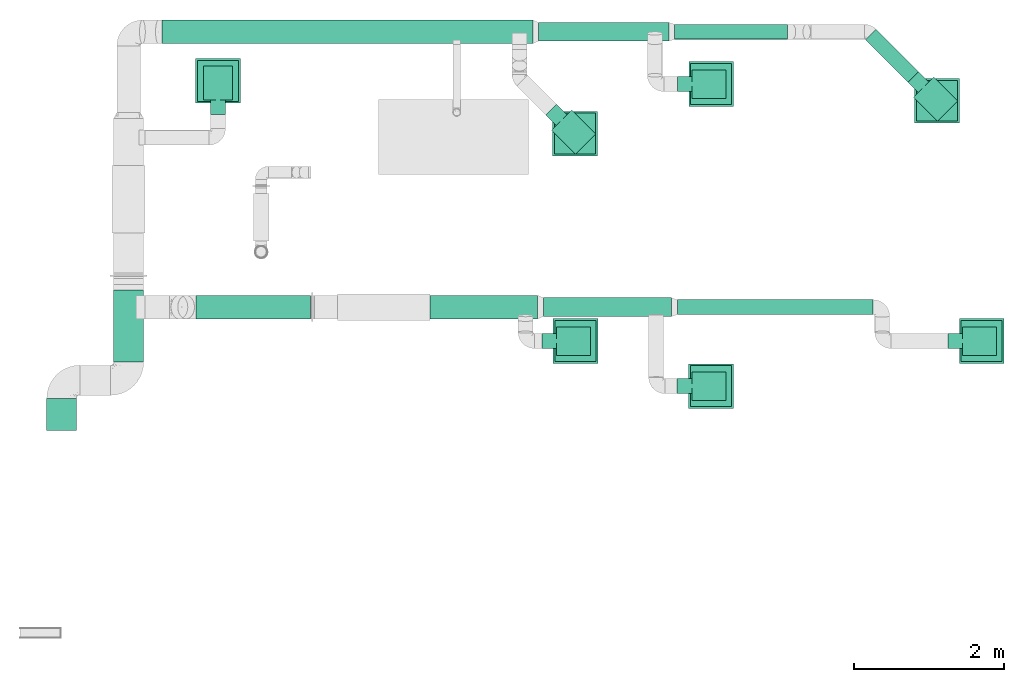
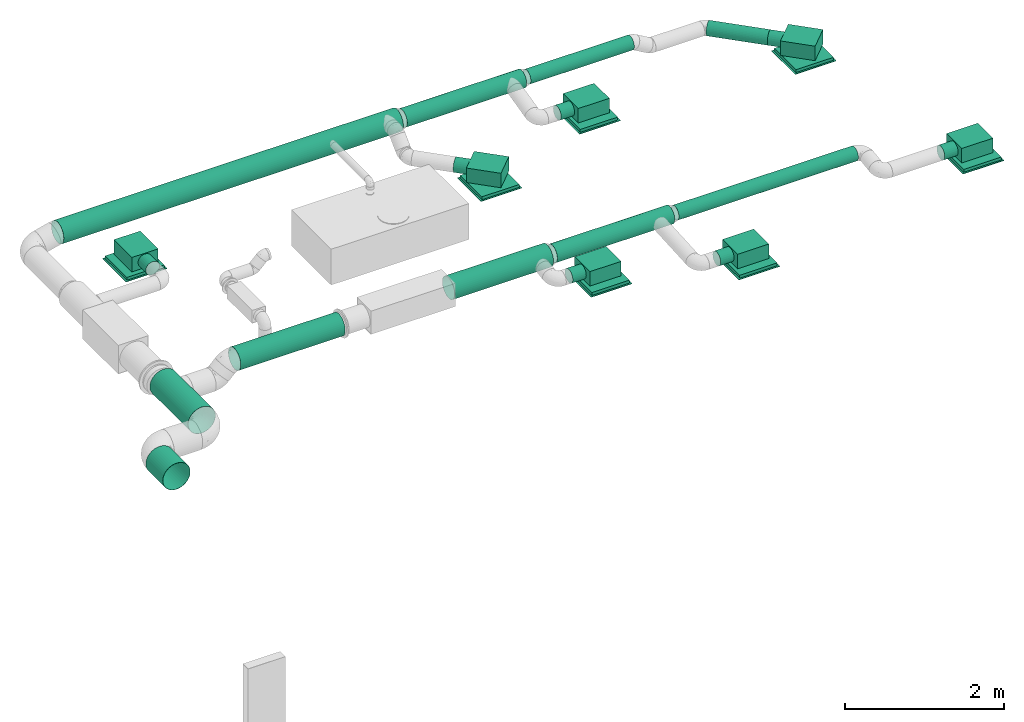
# One storey, part 1 of 16: 10 flow segments, 7 flow terminals.
"""IFC2X3 building model written with IfcOpenShell, lengths in millimetres."""

from ifc_helpers import new_model, entity, si_unit, converted_unit, derived_unit, direction, frame, origin_with_axes, origin_2d_with_axis, place, context, subcontext, project, spatial, hollow_circle, extrude, open_shell, surface_model, source, transform, mapped, type_object, element, save


model = new_model("IFC2X3")

# Units and contexts
model_context = context("Model", 3, precision=0.01, world=frame((0.0, 4.29681676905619e-09, 0.0)), true_north=direction((4.01073788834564e-13, 1.0)))
plan_context = context("Plan", 3, precision=0.01, world=frame((0.0, 4.29681676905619e-09, 0.0)), true_north=direction((4.01073788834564e-13, 1.0)))
body_context = subcontext(model_context, "Body", "Model", "MODEL_VIEW")
ifc_project = project(units=[converted_unit("PLANEANGLEUNIT", "DEGREE", entity("IfcPositiveLengthMeasure", 0.0174532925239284), si_unit("PLANEANGLEUNIT", "RADIAN"), dimensions=[0, 0, 0, 0, 0, 0, 0]), si_unit("AREAUNIT", "SQUARE_METRE"), si_unit("LENGTHUNIT", "METRE", prefix="MILLI"), si_unit("MASSUNIT", "GRAM", prefix="KILO"), si_unit("POWERUNIT", "WATT"), si_unit("PRESSUREUNIT", "PASCAL"), si_unit("FORCEUNIT", "NEWTON", prefix="KILO"), si_unit("ELECTRICVOLTAGEUNIT", "VOLT"), si_unit("ELECTRICCURRENTUNIT", "AMPERE"), si_unit("THERMODYNAMICTEMPERATUREUNIT", "DEGREE_CELSIUS"), si_unit("TIMEUNIT", "SECOND"), si_unit("VOLUMEUNIT", "CUBIC_METRE"), derived_unit("LINEARVELOCITYUNIT", [(si_unit("LENGTHUNIT", "METRE"), 1), (si_unit("TIMEUNIT", "SECOND"), -1)]), derived_unit("VOLUMETRICFLOWRATEUNIT", [(si_unit("VOLUMEUNIT", "CUBIC_METRE"), 1), (si_unit("TIMEUNIT", "SECOND"), -1)]), derived_unit("THERMALTRANSMITTANCEUNIT", [(si_unit("POWERUNIT", "WATT"), 1), (si_unit("THERMODYNAMICTEMPERATUREUNIT", "KELVIN"), -1), (si_unit("AREAUNIT", "SQUARE_METRE"), -1)]), derived_unit("SOUNDPRESSUREUNIT", [(si_unit("PRESSUREUNIT", "PASCAL"), 1)])], contexts=[model_context, plan_context])

# Site, building, storey
site_placement = place(None, frame((0.0, -4.29681676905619e-09, 0.0), z_axis=(0.0, 0.0, 1.0), x_axis=(1.0, 0.0, 0.0)))
site = spatial("IfcSite", under=ifc_project, at=site_placement, Name="ENGM", CompositionType="ELEMENT")
building_placement = place(site_placement, frame((0.0, 4.29681676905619e-09, 0.0), z_axis=(0.0, 0.0, 1.0), x_axis=(1.0, 0.0, 0.0)))
building = spatial("IfcBuilding", under=site, at=building_placement, Name="TH", CompositionType="ELEMENT")
storey_placement = place(building_placement, frame((0.0, 0.0, 210200.0), z_axis=(0.0, 0.0, 1.0), x_axis=(1.0, 0.0, 0.0)))
storey = spatial("IfcBuildingStorey", under=building, at=storey_placement, Name="Nivå F - 0,7 m", CompositionType="ELEMENT", Elevation=210200.0)

# Flow segments
duct_segment_type_1 = type_object("IfcDuctSegmentType", Name="2 - Spiro kanaler, Forsinket stål", PredefinedType="RIGIDSEGMENT")
shared_shape_1 = source(origin_with_axes(), body_context, "Body", "SweptSolid", [
    extrude(hollow_circle(Radius=200.0, WallThickness=2.0, at=origin_2d_with_axis()), frame((0.0, 0.0, 0.0), z_axis=(1.0, 0.0, 0.0), x_axis=(0.0, 1.0, 0.0)), (0.0, 0.0, 1.0), 426.8),
])
flow_segment_1_placement = place(storey_placement, frame((895666.49216, 481037.11656, 2677.84318), z_axis=(0.0, -2.5999999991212e-05, 0.999999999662), x_axis=(0.0, 0.999999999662, 2.5999999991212e-05)))
element("IfcFlowSegment", 1, at=flow_segment_1_placement, inside=storey, type_object=duct_segment_type_1, Name="2 - Spiro kanaler, Forsinket stål", context=body_context, shape_type="MappedRepresentation", body=[
    mapped(shared_shape_1, transform((0.0, 0.0, 0.0), scale=1.0)),
])
shared_shape_2 = source(origin_with_axes(), body_context, "Body", "SweptSolid", [
    extrude(hollow_circle(Radius=100.0, WallThickness=2.0, at=origin_2d_with_axis()), frame((0.0, 0.0, 0.0), z_axis=(1.0, 0.0, 0.0), x_axis=(0.0, 1.0, 0.0)), (0.0, 0.0, 1.0), 2605.0),
])
flow_segment_2_placement = place(storey_placement, frame((903851.49216, 482676.69257, 2861.60000000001), z_axis=(0.0, 0.0, 1.0), x_axis=(1.0, 0.0, 0.0)))
element("IfcFlowSegment", 2, at=flow_segment_2_placement, inside=storey, type_object=duct_segment_type_1, Name="2 - Spiro kanaler, Forsinket stål", context=body_context, shape_type="MappedRepresentation", body=[
    mapped(shared_shape_2, transform((0.0, 0.0, 0.0), scale=1.0)),
])
shared_shape_3 = source(origin_with_axes(), body_context, "Body", "SweptSolid", [
    extrude(hollow_circle(Radius=157.5, WallThickness=2.0, at=origin_2d_with_axis()), frame((0.0, 0.0, 0.0), z_axis=(1.0, 0.0, 0.0), x_axis=(0.0, 1.0, 0.0)), (0.0, 0.0, 1.0), 1517.3),
])
flow_segment_3_placement = place(storey_placement, frame((898972.1162, 482676.69257, 2861.60000000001), z_axis=(0.0, 0.0, 1.0), x_axis=(-1.0, 0.0, 0.0)))
element("IfcFlowSegment", 3, at=flow_segment_3_placement, inside=storey, type_object=duct_segment_type_1, Name="2 - Spiro kanaler, Forsinket stål", context=body_context, shape_type="MappedRepresentation", body=[
    mapped(shared_shape_3, transform((0.0, 0.0, 0.0), scale=1.0)),
])
shared_shape_4 = source(origin_with_axes(), body_context, "Body", "SweptSolid", [
    extrude(hollow_circle(Radius=125.0, WallThickness=2.0, at=origin_2d_with_axis()), frame((0.0, 0.0, 0.0), z_axis=(1.0, 0.0, 0.0), x_axis=(0.0, 1.0, 0.0)), (0.0, 0.0, 1.0), 1705.0),
])
flow_segment_4_placement = place(storey_placement, frame((902071.49216, 482676.69257, 2861.60000000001), z_axis=(0.0, 0.0, 1.0), x_axis=(1.0, 0.0, 0.0)))
element("IfcFlowSegment", 4, at=flow_segment_4_placement, inside=storey, type_object=duct_segment_type_1, Name="2 - Spiro kanaler, Forsinket stål", context=body_context, shape_type="MappedRepresentation", body=[
    mapped(shared_shape_4, transform((0.0, 0.0, 0.0), scale=1.0)),
])
shared_shape_5 = source(origin_with_axes(), body_context, "Body", "SweptSolid", [
    extrude(hollow_circle(Radius=125.0, WallThickness=2.0, at=origin_2d_with_axis()), frame((0.0, 0.0, 0.0), z_axis=(1.0, 0.0, 0.0), x_axis=(0.0, 1.0, 0.0)), (0.0, 0.0, 1.0), 1734.4),
])
flow_segment_5_placement = place(storey_placement, frame((902005.30997, 486337.00187, 2743.3186), z_axis=(4.1999999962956e-05, 0.0, 0.999999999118), x_axis=(0.999999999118, 0.0, -4.1999999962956e-05)))
element("IfcFlowSegment", 5, at=flow_segment_5_placement, inside=storey, type_object=duct_segment_type_1, Name="2 - Spiro kanaler, Forsinket stål", context=body_context, shape_type="MappedRepresentation", body=[
    mapped(shared_shape_5, transform((0.0, 0.0, 0.0), scale=1.0)),
])
shared_shape_6 = source(origin_with_axes(), body_context, "Body", "SweptSolid", [
    extrude(hollow_circle(Radius=157.5, WallThickness=2.0, at=origin_2d_with_axis()), frame((0.0, 0.0, 0.0), z_axis=(1.0, 0.0, 0.0), x_axis=(0.0, 1.0, 0.0)), (0.0, 0.0, 1.0), 1433.2),
])
flow_segment_6_placement = place(storey_placement, frame((901996.49216, 482676.69257, 2861.60000000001), z_axis=(0.0, 0.0, 1.0), x_axis=(-1.0, 0.0, 0.0)))
element("IfcFlowSegment", 6, at=flow_segment_6_placement, inside=storey, type_object=duct_segment_type_1, Name="2 - Spiro kanaler, Forsinket stål", context=body_context, shape_type="MappedRepresentation", body=[
    mapped(shared_shape_6, transform((0.0, 0.0, 0.0), scale=1.0)),
])
shared_shape_7 = source(origin_with_axes(), body_context, "Body", "SweptSolid", [
    extrude(hollow_circle(Radius=157.5, WallThickness=2.0, at=origin_2d_with_axis()), frame((0.0, 0.0, 0.0), z_axis=(1.0, 0.0, 0.0), x_axis=(0.0, 1.0, 0.0)), (0.0, 0.0, 1.0), 4931.3),
])
flow_segment_7_placement = place(storey_placement, frame((896999.01832, 486337.00187, 2743.3186), z_axis=(0.0, 0.0, 1.0), x_axis=(1.0, 0.0, 0.0)))
element("IfcFlowSegment", 7, at=flow_segment_7_placement, inside=storey, type_object=duct_segment_type_1, Name="2 - Spiro kanaler, Forsinket stål", context=body_context, shape_type="MappedRepresentation", body=[
    mapped(shared_shape_7, transform((0.0, 0.0, 0.0), scale=1.0)),
])
shared_shape_8 = source(origin_with_axes(), body_context, "Body", "SweptSolid", [
    extrude(hollow_circle(Radius=200.0, WallThickness=2.0, at=origin_2d_with_axis()), frame((0.0, 0.0, 0.0), z_axis=(1.0, 0.0, 0.0), x_axis=(0.0, 1.0, 0.0)), (0.0, 0.0, 1.0), 960.0),
])
flow_segment_8_placement = place(storey_placement, frame((896556.49216, 481943.92473, 2677.79999999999), z_axis=(0.0, 0.0, 1.0), x_axis=(0.0, 1.0, 0.0)))
element("IfcFlowSegment", 8, at=flow_segment_8_placement, inside=storey, type_object=duct_segment_type_1, Name="2 - Spiro kanaler, Forsinket stål", context=body_context, shape_type="MappedRepresentation", body=[
    mapped(shared_shape_8, transform((0.0, 0.0, 0.0), scale=1.0)),
])
duct_segment_type_2 = type_object("IfcDuctSegmentType", Name="KK002T - Spiro kanaler, Forsinket stål, korte bend", PredefinedType="RIGIDSEGMENT")
shared_shape_9 = source(origin_with_axes(), body_context, "Body", "SweptSolid", [
    extrude(hollow_circle(Radius=100.0, WallThickness=2.0, at=origin_2d_with_axis()), frame((0.0, 0.0, 0.0), z_axis=(1.0, 0.0, 0.0), x_axis=(0.0, 1.0, 0.0)), (0.0, 0.0, 1.0), 796.9),
])
flow_segment_9_placement = place(storey_placement, frame((906989.22489, 485738.33238, 2598.0), z_axis=(0.0, 0.0, 1.0), x_axis=(-0.707106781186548, 0.707106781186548, 0.0)))
element("IfcFlowSegment", 9, at=flow_segment_9_placement, inside=storey, type_object=duct_segment_type_2, Name="KK002T - Spiro kanaler, Forsinket stål, korte bend", context=body_context, shape_type="MappedRepresentation", body=[
    mapped(shared_shape_9, transform((0.0, 0.0, 0.0), scale=1.0)),
])
shared_shape_10 = source(origin_with_axes(), body_context, "Body", "SweptSolid", [
    extrude(hollow_circle(Radius=100.0, WallThickness=2.0, at=origin_2d_with_axis()), frame((0.0, 0.0, 0.0), z_axis=(1.0, 0.0, 0.0), x_axis=(0.0, 1.0, 0.0)), (0.0, 0.0, 1.0), 1502.3),
])
flow_segment_10_placement = place(storey_placement, frame((903814.66757, 486337.00187, 2743.24238000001), z_axis=(4.1999999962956e-05, 0.0, 0.999999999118), x_axis=(0.999999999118, 0.0, -4.1999999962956e-05)))
element("IfcFlowSegment", 10, at=flow_segment_10_placement, inside=storey, type_object=duct_segment_type_2, Name="KK002T - Spiro kanaler, Forsinket stål, korte bend", context=body_context, shape_type="MappedRepresentation", body=[
    mapped(shared_shape_10, transform((0.0, 0.0, 0.0), scale=1.0)),
])

# Flow terminals
air_terminal_type = type_object("IfcAirTerminalType", Name="Orion-LOV-TA-250+Luna-200-250", PredefinedType="NOTDEFINED")
shared_shape_11 = source(origin_with_axes(), body_context, "Body", "SurfaceModel", [
    surface_model("IfcShellBasedSurfaceModel", [(-272.49999, 272.49999, 44.0), (-272.49999, -272.49999, 44.0), (272.49999, -272.49999, 44.0), (272.49999, 272.49999, 44.0), (272.49999, 272.49999, 0.0), (272.49999, -272.49999, 0.0), (-272.49999, -272.49999, 0.0), (-272.49999, 272.49999, 0.0), (-297.49999, 297.49999, 0.0), (-297.49999, -297.49999, 0.0), (297.49999, -297.49999, 0.0), (297.49999, 297.49999, 0.0), (297.49999, 297.49999, -6.0), (297.49999, -297.49999, -6.0), (-297.49999, -297.49999, -6.0), (-297.49999, 297.49999, -6.0), (-126.0, 0.0, 87.0), (-121.70665, -32.6112, 87.0), (-109.1192, -63.0, 87.0), (-63.0, -109.1192, 87.0), (-89.09545, -89.09545, 87.0), (-32.6112, -121.70665, 87.0), (0.0, -126.0, 87.0), (89.09545, -89.09545, 87.0), (109.1192, -63.0, 87.0), (121.70665, -32.6112, 87.0), (121.70665, -32.6112, 44.0), (109.1192, -63.0, 44.0), (89.09545, -89.09545, 44.0), (32.6112, 121.70665, 44.0), (-32.6112, 121.70665, 44.0), (32.6112, -121.70665, 44.0), (63.0, -109.1192, 44.0), (-89.09545, 89.09545, 44.0), (121.70665, 32.6112, 44.0), (89.09545, 89.09545, 44.0), (109.1192, 63.0, 44.0), (126.0, 0.0, 44.0), (63.0, 109.1192, 44.0), (0.0, -126.0, 44.0), (-63.0, -109.1192, 44.0), (-109.1192, -63.0, 44.0), (-89.09545, -89.09545, 44.0), (-121.70665, -32.6112, 44.0), (-126.0, 0.0, 44.0), (-121.70665, 32.6112, 44.0), (-63.0, 109.1192, 44.0), (0.0, 126.0, 44.0), (-109.1192, 63.0, 44.0), (-32.6112, -121.70665, 44.0), (-448.99999, 25.8819, 294.59257), (-448.99999, -25.8819, 294.59257), (-448.99999, 0.0, 298.0), (-448.99999, 70.71068, 268.71067), (-448.99999, 50.0, 284.60254), (-448.99999, -96.59259, 172.11809), (-448.99999, 86.60254, 248.0), (-448.99999, -50.0, 284.60254), (-448.99999, -86.60254, 248.0), (-448.99999, -70.71068, 268.71067), (-448.99999, -100.0, 198.0), (-448.99999, -96.59259, 223.8819), (-448.99999, 100.0, 198.0), (-448.99999, 96.59259, 223.8819), (-448.99999, 25.8819, 101.40742), (-448.99999, 96.59259, 172.11809), (-448.99999, 70.71068, 127.28932), (-448.99999, 86.60254, 148.0), (-448.99999, 50.0, 111.39746), (-448.99999, 0.0, 98.0), (-448.99999, -70.71068, 127.28932), (-448.99999, -86.60254, 148.0), (-448.99999, -50.0, 111.39746), (-448.99999, -25.8819, 101.40742), (-253.99999, 0.0, 98.0), (-253.99999, 25.8819, 101.40742), (-253.99999, 50.0, 111.39746), (-253.99999, -50.0, 111.39746), (-253.99999, 70.71068, 127.28932), (-253.99999, 86.60254, 148.0), (-253.99999, 96.59259, 172.11809), (-253.99999, -100.0, 198.0), (-253.99999, -70.71068, 127.28932), (-253.99999, -25.8819, 101.40742), (-253.99999, -96.59259, 172.11809), (-253.99999, -86.60254, 148.0), (-253.99999, 100.0, 198.0), (-253.99999, 96.59259, 223.8819), (-253.99999, 86.60254, 248.0), (-253.99999, 25.8819, 294.59257), (-253.99999, 70.71068, 268.71067), (-253.99999, 50.0, 284.60254), (-253.99999, -86.60254, 248.0), (-253.99999, -50.0, 284.60254), (-253.99999, -70.71068, 268.71067), (-253.99999, -96.59259, 223.8819), (-253.99999, -25.8819, 294.59257), (-253.99999, 0.0, 298.0), (198.0, -189.99999, 309.0), (198.0, 189.99999, 309.0), (-253.99999, -189.99999, 309.0), (-253.99999, 189.99999, 309.0), (-253.99999, -189.99999, 87.0), (-253.99999, 189.99999, 87.0), (198.0, -189.99999, 87.0), (198.0, 189.99999, 87.0), (-89.09545, 89.09545, 87.0), (32.6112, 121.70665, 87.0), (-32.6112, 121.70665, 87.0), (-121.70665, 32.6112, 87.0), (-109.1192, 63.0, 87.0), (-63.0, 109.1192, 87.0), (0.0, 126.0, 87.0), (32.6112, -121.70665, 87.0), (63.0, -109.1192, 87.0), (89.09545, 89.09545, 87.0), (63.0, 109.1192, 87.0), (121.70665, 32.6112, 87.0), (109.1192, 63.0, 87.0), (126.0, 0.0, 87.0)], [open_shell([[[0, 1, 2]], [[2, 3, 0]], [[4, 5, 6]], [[6, 7, 4]], [[8, 9, 10]], [[10, 11, 8]], [[12, 13, 14]], [[14, 15, 12]], [[8, 11, 12]], [[12, 15, 8]], [[9, 8, 15]], [[15, 14, 9]], [[10, 9, 14]], [[14, 13, 10]], [[11, 10, 13]], [[13, 12, 11]], [[16, 17, 18]], [[19, 18, 20]], [[19, 21, 22]], [[23, 24, 25]], [[0, 3, 4]], [[4, 7, 0]], [[1, 0, 7]], [[7, 6, 1]], [[2, 1, 6]], [[6, 5, 2]], [[3, 2, 5]], [[5, 4, 3]], [[26, 27, 28]], [[29, 26, 28]], [[30, 29, 28]], [[31, 28, 32]], [[31, 33, 28]], [[34, 35, 36]], [[34, 37, 26]], [[35, 29, 38]], [[29, 35, 34]], [[26, 29, 34]], [[31, 39, 33]], [[39, 40, 33]], [[41, 40, 42]], [[41, 43, 44]], [[33, 40, 41]], [[45, 41, 44]], [[30, 33, 46]], [[47, 29, 30]], [[33, 45, 48]], [[30, 28, 33]], [[45, 33, 41]], [[39, 49, 40]], [[50, 51, 52]], [[53, 50, 54]], [[51, 50, 55]], [[53, 55, 50]], [[55, 53, 56]], [[57, 58, 59]], [[58, 57, 51]], [[58, 60, 61]], [[60, 58, 51]], [[60, 51, 55]], [[62, 56, 63]], [[64, 62, 65]], [[66, 65, 67]], [[68, 64, 65]], [[68, 65, 66]], [[62, 64, 69]], [[55, 70, 71]], [[70, 55, 72]], [[72, 69, 73]], [[55, 56, 72]], [[62, 69, 72]], [[72, 56, 62]], [[74, 75, 76]], [[77, 74, 76]], [[78, 79, 80]], [[78, 80, 76]], [[81, 76, 80]], [[77, 81, 82]], [[77, 83, 74]], [[82, 84, 85]], [[84, 82, 81]], [[76, 81, 77]], [[80, 86, 81]], [[86, 87, 88]], [[86, 88, 89]], [[90, 91, 89]], [[90, 89, 88]], [[89, 92, 81]], [[92, 93, 94]], [[95, 81, 92]], [[92, 96, 93]], [[92, 89, 96]], [[97, 96, 89]], [[81, 86, 89]], [[62, 63, 87]], [[91, 54, 50]], [[54, 90, 53]], [[89, 50, 52]], [[62, 87, 86]], [[87, 63, 56]], [[87, 56, 88]], [[88, 56, 90]], [[90, 56, 53]], [[90, 54, 91]], [[50, 89, 91]], [[52, 97, 89]], [[96, 51, 57]], [[59, 93, 57]], [[92, 58, 61]], [[59, 58, 94]], [[95, 61, 60]], [[51, 96, 97]], [[57, 93, 96]], [[59, 94, 93]], [[58, 92, 94]], [[95, 92, 61]], [[60, 81, 95]], [[51, 97, 52]], [[84, 55, 71]], [[70, 85, 71]], [[77, 72, 73]], [[70, 72, 82]], [[83, 73, 69]], [[55, 81, 60]], [[55, 84, 81]], [[71, 85, 84]], [[70, 82, 85]], [[77, 82, 72]], [[73, 83, 77]], [[69, 74, 83]], [[75, 64, 68]], [[66, 76, 68]], [[79, 67, 65]], [[66, 67, 78]], [[80, 65, 62]], [[64, 75, 74]], [[68, 76, 75]], [[66, 78, 76]], [[67, 79, 78]], [[80, 79, 65]], [[62, 86, 80]], [[64, 74, 69]], [[98, 99, 100]], [[101, 100, 99]], [[102, 103, 104]], [[105, 104, 103]], [[101, 99, 105]], [[105, 103, 101]], [[100, 101, 102]], [[103, 102, 101]], [[98, 100, 102]], [[102, 104, 98]], [[99, 98, 105]], [[104, 105, 98]], [[106, 16, 18]], [[107, 108, 18]], [[18, 19, 23]], [[109, 106, 110]], [[109, 16, 106]], [[106, 108, 111]], [[18, 108, 106]], [[108, 107, 112]], [[19, 113, 23]], [[23, 113, 114]], [[23, 25, 18]], [[18, 25, 107]], [[107, 115, 116]], [[115, 107, 117]], [[115, 117, 118]], [[107, 25, 117]], [[25, 119, 117]], [[113, 19, 22]], [[43, 17, 44]], [[41, 18, 43]], [[19, 42, 40]], [[41, 42, 20]], [[21, 40, 49]], [[43, 18, 17]], [[17, 16, 44]], [[21, 19, 40]], [[20, 42, 19]], [[20, 18, 41]], [[22, 21, 49]], [[49, 39, 22]], [[31, 113, 39]], [[32, 114, 31]], [[24, 28, 27]], [[32, 28, 23]], [[25, 27, 26]], [[32, 23, 114]], [[114, 113, 31]], [[119, 25, 26]], [[24, 27, 25]], [[24, 23, 28]], [[37, 119, 26]], [[39, 113, 22]], [[34, 117, 37]], [[36, 118, 34]], [[116, 35, 38]], [[36, 35, 115]], [[107, 38, 29]], [[34, 118, 117]], [[117, 119, 37]], [[107, 116, 38]], [[115, 35, 116]], [[115, 118, 36]], [[112, 107, 29]], [[29, 47, 112]], [[30, 108, 47]], [[46, 111, 30]], [[110, 33, 48]], [[46, 33, 106]], [[109, 48, 45]], [[46, 106, 111]], [[111, 108, 30]], [[16, 109, 45]], [[110, 48, 109]], [[110, 106, 33]], [[44, 16, 45]], [[47, 108, 112]]])]),
])
for number, where, z_axis, x_axis in (
    (11, (902498.83019, 482225.40642, 2600.0), (0.0, 0.0, 1.0), (1.0, 0.0, 0.0)),
    (12, (904298.83019, 481625.40642, 2600.0), (0.0, 0.0, 1.0), (1.0, 0.0, 0.0)),
    (13, (907898.83019, 482225.40642, 2600.0), (0.0, 0.0, 1.0), (1.0, 0.0, 0.0)),
    (14, (897744.82148, 485685.2279, 2400.0), (0.0, 0.0, 1.0), (0.0, 1.0, 0.0)),
    (15, (904302.5, 485642.90642, 2400.0), (0.0, 0.0, 1.0), (1.0, 0.0, 0.0)),
):
    element("IfcFlowTerminal", number, at=place(storey_placement, frame(where, z_axis=z_axis, x_axis=x_axis)), inside=storey, type_object=air_terminal_type, Name="Orion-LOV-TA-250+Luna-200-250", context=body_context, shape_type="MappedRepresentation", body=[
        mapped(shared_shape_11, transform((0.0, 0.0, 0.0), scale=1.0)),
    ])
shared_shape_12 = source(origin_with_axes(), body_context, "Body", "SurfaceModel", [
    surface_model("IfcShellBasedSurfaceModel", [(0.0, -420.72853, -6.0), (-420.72853, 0.0, -6.0), (0.0, 420.72853, -6.0), (420.72853, 0.0, -6.0), (420.72853, 0.0, 0.0), (0.0, 420.72853, 0.0), (-420.72853, 0.0, 0.0), (0.0, -420.72853, 0.0), (0.0, -385.37321, 0.0), (-385.37321, 0.0, 0.0), (0.0, 385.37321, 0.0), (385.37321, 0.0, 0.0), (-126.0, 0.0, 87.0), (-121.70665, -32.6112, 87.0), (-109.1192, -63.0, 87.0), (-63.0, -109.1192, 87.0), (-89.09545, -89.09545, 87.0), (-32.6112, -121.70665, 87.0), (0.0, -126.0, 87.0), (89.09545, -89.09545, 87.0), (109.1192, -63.0, 87.0), (121.70665, -32.6112, 87.0), (121.70665, -32.6112, 44.0), (109.1192, -63.0, 44.0), (89.09545, -89.09545, 44.0), (32.6112, 121.70665, 44.0), (-32.6112, 121.70665, 44.0), (32.6112, -121.70665, 44.0), (63.0, -109.1192, 44.0), (-89.09545, 89.09545, 44.0), (121.70665, 32.6112, 44.0), (89.09545, 89.09545, 44.0), (109.1192, 63.0, 44.0), (126.0, 0.0, 44.0), (63.0, 109.1192, 44.0), (0.0, -126.0, 44.0), (-63.0, -109.1192, 44.0), (-109.1192, -63.0, 44.0), (-89.09545, -89.09545, 44.0), (-121.70665, -32.6112, 44.0), (-126.0, 0.0, 44.0), (-121.70665, 32.6112, 44.0), (-63.0, 109.1192, 44.0), (0.0, 126.0, 44.0), (-109.1192, 63.0, 44.0), (-32.6112, -121.70665, 44.0), (-448.99999, 25.8819, 294.59257), (-448.99999, -25.8819, 294.59257), (-448.99999, 0.0, 298.0), (-448.99999, 70.71068, 268.71067), (-448.99999, 50.0, 284.60254), (-448.99999, -96.59259, 172.11809), (-448.99999, 86.60254, 248.0), (-448.99999, -50.0, 284.60254), (-448.99999, -86.60254, 248.0), (-448.99999, -70.71068, 268.71067), (-448.99999, -100.0, 198.0), (-448.99999, -96.59259, 223.8819), (-448.99999, 100.0, 198.0), (-448.99999, 96.59259, 223.8819), (-448.99999, 25.8819, 101.40742), (-448.99999, 96.59259, 172.11809), (-448.99999, 70.71068, 127.28932), (-448.99999, 86.60254, 148.0), (-448.99999, 50.0, 111.39746), (-448.99999, 0.0, 98.0), (-448.99999, -70.71068, 127.28932), (-448.99999, -86.60254, 148.0), (-448.99999, -50.0, 111.39746), (-448.99999, -25.8819, 101.40742), (-253.99999, 0.0, 98.0), (-253.99999, 25.8819, 101.40742), (-253.99999, 50.0, 111.39746), (-253.99999, -50.0, 111.39746), (-253.99999, 70.71068, 127.28932), (-253.99999, 86.60254, 148.0), (-253.99999, 96.59259, 172.11809), (-253.99999, -100.0, 198.0), (-253.99999, -70.71068, 127.28932), (-253.99999, -25.8819, 101.40742), (-253.99999, -96.59259, 172.11809), (-253.99999, -86.60254, 148.0), (-253.99999, 100.0, 198.0), (-253.99999, 96.59259, 223.8819), (-253.99999, 86.60254, 248.0), (-253.99999, 25.8819, 294.59257), (-253.99999, 70.71068, 268.71067), (-253.99999, 50.0, 284.60254), (-253.99999, -86.60254, 248.0), (-253.99999, -50.0, 284.60254), (-253.99999, -70.71068, 268.71067), (-253.99999, -96.59259, 223.8819), (-253.99999, -25.8819, 294.59257), (-253.99999, 0.0, 298.0), (198.0, -189.99999, 309.0), (198.0, 189.99999, 309.0), (-253.99999, -189.99999, 309.0), (-253.99999, 189.99999, 309.0), (-253.99999, -189.99999, 87.0), (-253.99999, 189.99999, 87.0), (198.0, -189.99999, 87.0), (198.0, 189.99999, 87.0), (-89.09545, 89.09545, 87.0), (32.6112, 121.70665, 87.0), (-32.6112, 121.70665, 87.0), (-121.70665, 32.6112, 87.0), (-109.1192, 63.0, 87.0), (-63.0, 109.1192, 87.0), (0.0, 126.0, 87.0), (32.6112, -121.70665, 87.0), (63.0, -109.1192, 87.0), (89.09545, 89.09545, 87.0), (63.0, 109.1192, 87.0), (121.70665, 32.6112, 87.0), (109.1192, 63.0, 87.0), (126.0, 0.0, 87.0), (385.37321, 0.0, 44.0), (0.0, 385.37321, 44.0), (0.0, -385.37321, 44.0), (-385.37321, 0.0, 44.0)], [open_shell([[[0, 1, 2]], [[2, 3, 0]], [[4, 5, 6]], [[6, 7, 4]], [[6, 5, 1]], [[2, 1, 5]], [[7, 6, 0]], [[1, 0, 6]], [[4, 7, 3]], [[0, 3, 7]], [[5, 4, 2]], [[3, 2, 4]], [[8, 9, 10]], [[10, 11, 8]], [[12, 13, 14]], [[15, 14, 16]], [[15, 17, 18]], [[19, 20, 21]], [[22, 23, 24]], [[25, 22, 24]], [[26, 25, 24]], [[27, 24, 28]], [[27, 29, 24]], [[30, 31, 32]], [[30, 33, 22]], [[31, 25, 34]], [[25, 31, 30]], [[22, 25, 30]], [[27, 35, 29]], [[35, 36, 29]], [[37, 36, 38]], [[37, 39, 40]], [[29, 36, 37]], [[41, 37, 40]], [[26, 29, 42]], [[43, 25, 26]], [[29, 41, 44]], [[26, 24, 29]], [[41, 29, 37]], [[35, 45, 36]], [[46, 47, 48]], [[49, 46, 50]], [[47, 46, 51]], [[49, 51, 46]], [[51, 49, 52]], [[53, 54, 55]], [[54, 53, 47]], [[54, 56, 57]], [[56, 54, 47]], [[56, 47, 51]], [[58, 52, 59]], [[60, 58, 61]], [[62, 61, 63]], [[64, 60, 61]], [[64, 61, 62]], [[58, 60, 65]], [[51, 66, 67]], [[66, 51, 68]], [[68, 65, 69]], [[51, 52, 68]], [[58, 65, 68]], [[68, 52, 58]], [[70, 71, 72]], [[73, 70, 72]], [[74, 75, 76]], [[74, 76, 72]], [[77, 72, 76]], [[73, 77, 78]], [[73, 79, 70]], [[78, 80, 81]], [[80, 78, 77]], [[72, 77, 73]], [[76, 82, 77]], [[82, 83, 84]], [[82, 84, 85]], [[86, 87, 85]], [[86, 85, 84]], [[85, 88, 77]], [[88, 89, 90]], [[91, 77, 88]], [[88, 92, 89]], [[88, 85, 92]], [[93, 92, 85]], [[77, 82, 85]], [[58, 59, 83]], [[87, 50, 46]], [[50, 86, 49]], [[85, 46, 48]], [[58, 83, 82]], [[83, 59, 52]], [[83, 52, 84]], [[84, 52, 86]], [[86, 52, 49]], [[86, 50, 87]], [[46, 85, 87]], [[48, 93, 85]], [[92, 47, 53]], [[55, 89, 53]], [[88, 54, 57]], [[55, 54, 90]], [[91, 57, 56]], [[47, 92, 93]], [[53, 89, 92]], [[55, 90, 89]], [[54, 88, 90]], [[91, 88, 57]], [[56, 77, 91]], [[47, 93, 48]], [[80, 51, 67]], [[66, 81, 67]], [[73, 68, 69]], [[66, 68, 78]], [[79, 69, 65]], [[51, 77, 56]], [[51, 80, 77]], [[67, 81, 80]], [[66, 78, 81]], [[73, 78, 68]], [[69, 79, 73]], [[65, 70, 79]], [[71, 60, 64]], [[62, 72, 64]], [[75, 63, 61]], [[62, 63, 74]], [[76, 61, 58]], [[60, 71, 70]], [[64, 72, 71]], [[62, 74, 72]], [[63, 75, 74]], [[76, 75, 61]], [[58, 82, 76]], [[60, 70, 65]], [[94, 95, 96]], [[97, 96, 95]], [[98, 99, 100]], [[101, 100, 99]], [[97, 95, 101]], [[101, 99, 97]], [[96, 97, 98]], [[99, 98, 97]], [[94, 96, 98]], [[98, 100, 94]], [[95, 94, 101]], [[100, 101, 94]], [[102, 12, 14]], [[103, 104, 14]], [[14, 15, 19]], [[105, 102, 106]], [[105, 12, 102]], [[102, 104, 107]], [[14, 104, 102]], [[104, 103, 108]], [[15, 109, 19]], [[19, 109, 110]], [[19, 21, 14]], [[14, 21, 103]], [[103, 111, 112]], [[111, 103, 113]], [[111, 113, 114]], [[103, 21, 113]], [[21, 115, 113]], [[109, 15, 18]], [[39, 13, 40]], [[37, 14, 39]], [[15, 38, 36]], [[37, 38, 16]], [[17, 36, 45]], [[39, 14, 13]], [[13, 12, 40]], [[17, 15, 36]], [[16, 38, 15]], [[16, 14, 37]], [[18, 17, 45]], [[45, 35, 18]], [[27, 109, 35]], [[28, 110, 27]], [[20, 24, 23]], [[28, 24, 19]], [[21, 23, 22]], [[28, 19, 110]], [[110, 109, 27]], [[115, 21, 22]], [[20, 23, 21]], [[20, 19, 24]], [[33, 115, 22]], [[35, 109, 18]], [[30, 113, 33]], [[32, 114, 30]], [[112, 31, 34]], [[32, 31, 111]], [[103, 34, 25]], [[30, 114, 113]], [[113, 115, 33]], [[103, 112, 34]], [[111, 31, 112]], [[111, 114, 32]], [[108, 103, 25]], [[25, 43, 108]], [[26, 104, 43]], [[42, 107, 26]], [[106, 29, 44]], [[42, 29, 102]], [[105, 44, 41]], [[42, 102, 107]], [[107, 104, 26]], [[12, 105, 41]], [[106, 44, 105]], [[106, 102, 29]], [[40, 12, 41]], [[43, 104, 108]], [[116, 117, 118]], [[119, 118, 117]], [[119, 117, 10]], [[10, 9, 119]], [[118, 119, 9]], [[9, 8, 118]], [[116, 118, 8]], [[8, 11, 116]], [[117, 116, 11]], [[11, 10, 117]]])]),
])
for number, where, z_axis, x_axis in (
    (16, (902492.5, 484982.90642, 2400.0), (0.0, 0.0, 1.0), (0.707106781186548, -0.707106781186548, 0.0)),
    (17, (907306.71583, 485420.84144, 2400.0), (0.0, 0.0, 1.0), (0.707106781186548, -0.707106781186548, 0.0)),
):
    element("IfcFlowTerminal", number, at=place(storey_placement, frame(where, z_axis=z_axis, x_axis=x_axis)), inside=storey, type_object=air_terminal_type, Name="Orion-LOV-TA-250+Luna-200-250", context=body_context, shape_type="MappedRepresentation", body=[
        mapped(shared_shape_12, transform((0.0, 0.0, 0.0), scale=1.0)),
    ])

save(model, "model.ifc")
